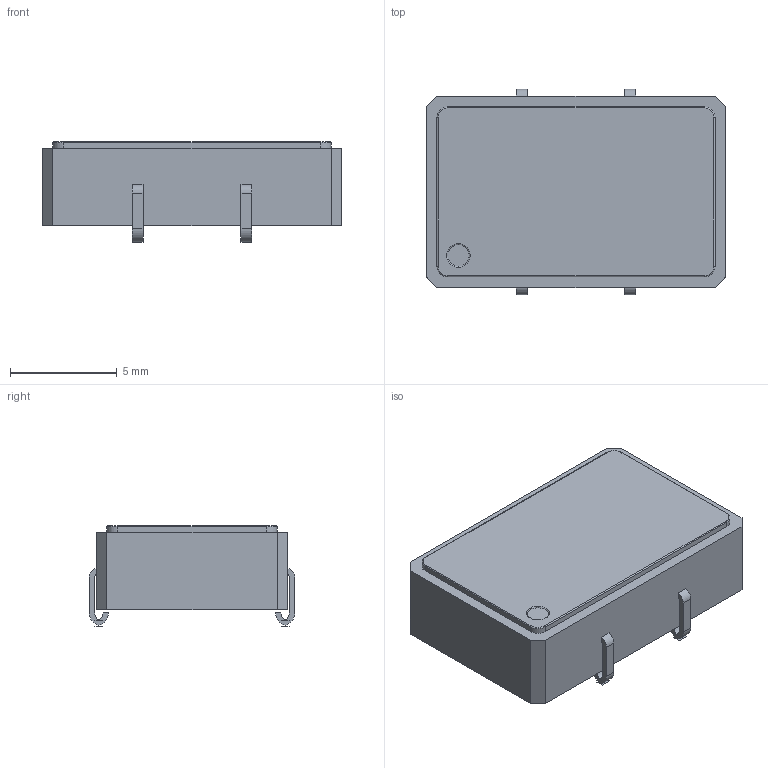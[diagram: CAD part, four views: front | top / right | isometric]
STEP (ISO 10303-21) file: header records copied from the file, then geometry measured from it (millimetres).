
FILE_DESCRIPTION (( 'STEP AP214' ), '1' );
FILE_NAME ( 'OSCJ4P508_1400X895X470L50.STEP', '2021-10-06T06:48:59', ( '' ), ( '' ), '', '©2017 PCB Libraries, Inc.', '' );
FILE_SCHEMA (( 'AUTOMOTIVE_DESIGN' ));
Length unit declared in the file: millimetre
Products named in the file (1): OSCJ4P508_1400X895X470L50
Bounding box: 14 x 9.6 x 4.7 mm (x, y, z)
Volume: 485.1 mm3; surface area: 447.4 mm2
Topology: 5 solids, 5 shells, 118 faces, 294 edges, 180 vertices
Faces by surface type: plane 80, cylinder 32, torus 6
Entity records: 3480 total; most frequent: DIRECTION 542, CARTESIAN_POINT 537, ORIENTED_EDGE 524, EDGE_CURVE 262, VECTOR 188, LINE 188, AXIS2_PLACEMENT_3D 177, VERTEX_POINT 172
